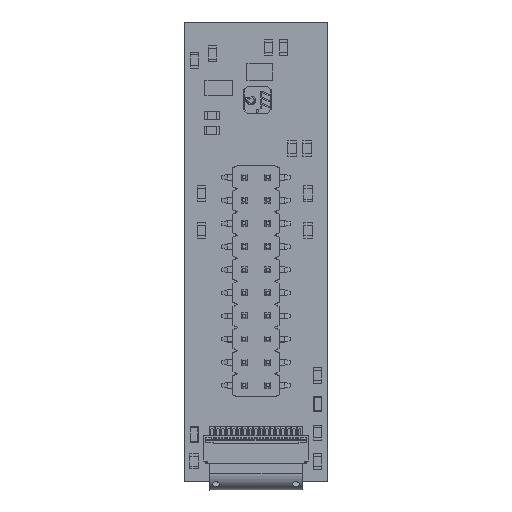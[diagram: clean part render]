
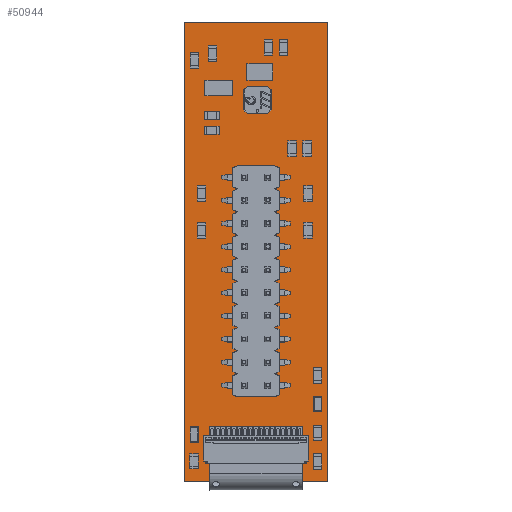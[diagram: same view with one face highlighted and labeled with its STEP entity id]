
A CAD part, top view. The second image highlights one B-rep face of the part: STEP entity #50944.
In plain terms, the highlighted planar face has unit normal (0, 0, 1).
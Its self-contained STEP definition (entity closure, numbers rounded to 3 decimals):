
#1788 = CARTESIAN_POINT ( 'NONE',  ( 0., 50.5, 0. ) ) ;
#5293 = ORIENTED_EDGE ( 'NONE', *, *, #15446, .F. ) ;
#5580 = VECTOR ( 'NONE', #75166, 1000. ) ;
#9840 = EDGE_CURVE ( 'NONE', #35672, #38438, #79779, .T. ) ;
#10870 = DIRECTION ( 'NONE',  ( 1., 0., 0. ) ) ;
#11240 = CARTESIAN_POINT ( 'NONE',  ( 15.75, 50.5, 0. ) ) ;
#15446 = EDGE_CURVE ( 'NONE', #70141, #35672, #70254, .T. ) ;
#21611 = CARTESIAN_POINT ( 'NONE',  ( 15.75, 50.5, 0. ) ) ;
#22136 = LINE ( 'NONE', #61151, #5580 ) ;
#25865 = PLANE ( 'NONE',  #91137 ) ;
#27840 = FACE_OUTER_BOUND ( 'NONE', #53427, .T. ) ;
#31840 = CARTESIAN_POINT ( 'NONE',  ( 15.75, 0., 0. ) ) ;
#34261 = DIRECTION ( 'NONE',  ( 0., -1., 0. ) ) ;
#35672 = VERTEX_POINT ( 'NONE', #21611 ) ;
#37800 = DIRECTION ( 'NONE',  ( 1., 0., 0. ) ) ;
#38438 = VERTEX_POINT ( 'NONE', #31840 ) ;
#49865 = CARTESIAN_POINT ( 'NONE',  ( 0., 0., 0. ) ) ;
#50944 = ADVANCED_FACE ( 'NONE', ( #27840 ), #25865, .T. ) ;
#53427 = EDGE_LOOP ( 'NONE', ( #79959, #90630, #5293, #86423 ) ) ;
#54863 = DIRECTION ( 'NONE',  ( 0., 1., 0. ) ) ;
#55848 = CARTESIAN_POINT ( 'NONE',  ( 0., 0., 0. ) ) ;
#60741 = VECTOR ( 'NONE', #37800, 1000. ) ;
#61151 = CARTESIAN_POINT ( 'NONE',  ( 15.75, 0., 0. ) ) ;
#65879 = DIRECTION ( 'NONE',  ( 0., 0., 1. ) ) ;
#67605 = VECTOR ( 'NONE', #54863, 1000. ) ;
#70082 = VERTEX_POINT ( 'NONE', #76755 ) ;
#70141 = VERTEX_POINT ( 'NONE', #71700 ) ;
#70254 = LINE ( 'NONE', #1788, #60741 ) ;
#71700 = CARTESIAN_POINT ( 'NONE',  ( 0., 50.5, 0. ) ) ;
#75166 = DIRECTION ( 'NONE',  ( -1., 0., 0. ) ) ;
#76755 = CARTESIAN_POINT ( 'NONE',  ( 0., 0., 0. ) ) ;
#78392 = LINE ( 'NONE', #55848, #67605 ) ;
#79779 = LINE ( 'NONE', #11240, #81048 ) ;
#79959 = ORIENTED_EDGE ( 'NONE', *, *, #88597, .F. ) ;
#80923 = EDGE_CURVE ( 'NONE', #70082, #70141, #78392, .T. ) ;
#81048 = VECTOR ( 'NONE', #34261, 1000. ) ;
#86423 = ORIENTED_EDGE ( 'NONE', *, *, #80923, .F. ) ;
#88597 = EDGE_CURVE ( 'NONE', #38438, #70082, #22136, .T. ) ;
#90630 = ORIENTED_EDGE ( 'NONE', *, *, #9840, .F. ) ;
#91137 = AXIS2_PLACEMENT_3D ( 'NONE', #49865, #65879, #10870 ) ;
